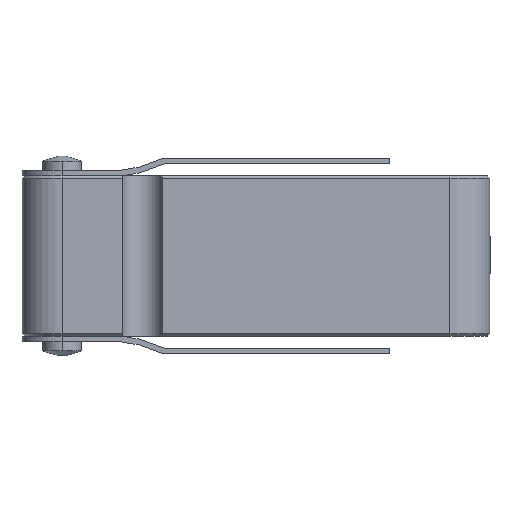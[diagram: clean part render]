
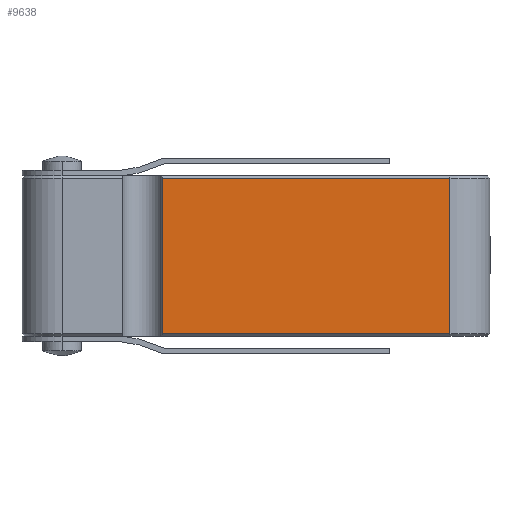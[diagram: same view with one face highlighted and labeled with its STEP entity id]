
A CAD part, left-side view. The second image highlights one B-rep face of the part: STEP entity #9638.
In plain terms, the highlighted planar face has unit normal (-1, 0, 0).
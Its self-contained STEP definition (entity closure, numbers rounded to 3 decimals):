
#405 = DIRECTION ( 'NONE',  ( 1., 0., 0. ) ) ;
#435 = ORIENTED_EDGE ( 'NONE', *, *, #3671, .T. ) ;
#599 = LINE ( 'NONE', #6861, #2677 ) ;
#1341 = AXIS2_PLACEMENT_3D ( 'NONE', #8072, #405, #3443 ) ;
#1380 = EDGE_CURVE ( 'NONE', #4018, #2571, #8473, .T. ) ;
#1952 = CARTESIAN_POINT ( 'NONE',  ( -12.5, 7., -5.8 ) ) ;
#1985 = CARTESIAN_POINT ( 'NONE',  ( -12.5, 7., 6. ) ) ;
#2067 = ORIENTED_EDGE ( 'NONE', *, *, #1380, .F. ) ;
#2144 = CARTESIAN_POINT ( 'NONE',  ( -12.5, -14.5, 6. ) ) ;
#2571 = VERTEX_POINT ( 'NONE', #5212 ) ;
#2677 = VECTOR ( 'NONE', #8260, 1000. ) ;
#3067 = ORIENTED_EDGE ( 'NONE', *, *, #9606, .T. ) ;
#3133 = VECTOR ( 'NONE', #5113, 1000. ) ;
#3443 = DIRECTION ( 'NONE',  ( 0., 1., 0. ) ) ;
#3671 = EDGE_CURVE ( 'NONE', #4018, #8632, #599, .T. ) ;
#4018 = VERTEX_POINT ( 'NONE', #8503 ) ;
#4112 = VECTOR ( 'NONE', #6872, 1000. ) ;
#4312 = PLANE ( 'NONE',  #1341 ) ;
#4648 = VERTEX_POINT ( 'NONE', #7112 ) ;
#4889 = ORIENTED_EDGE ( 'NONE', *, *, #8907, .T. ) ;
#5113 = DIRECTION ( 'NONE',  ( 0., 0., -1. ) ) ;
#5130 = LINE ( 'NONE', #1952, #8399 ) ;
#5212 = CARTESIAN_POINT ( 'NONE',  ( -12.5, -14.5, -5.8 ) ) ;
#6570 = EDGE_LOOP ( 'NONE', ( #4889, #3067, #2067, #435 ) ) ;
#6861 = CARTESIAN_POINT ( 'NONE',  ( -12.5, 7., 5.8 ) ) ;
#6872 = DIRECTION ( 'NONE',  ( 0., 0., -1. ) ) ;
#7112 = CARTESIAN_POINT ( 'NONE',  ( -12.5, 7., -5.8 ) ) ;
#8072 = CARTESIAN_POINT ( 'NONE',  ( -12.5, 7., 6. ) ) ;
#8260 = DIRECTION ( 'NONE',  ( 0., 1., 0. ) ) ;
#8399 = VECTOR ( 'NONE', #9615, 1000. ) ;
#8473 = LINE ( 'NONE', #2144, #4112 ) ;
#8503 = CARTESIAN_POINT ( 'NONE',  ( -12.5, -14.5, 5.8 ) ) ;
#8632 = VERTEX_POINT ( 'NONE', #9747 ) ;
#8907 = EDGE_CURVE ( 'NONE', #8632, #4648, #9024, .T. ) ;
#9024 = LINE ( 'NONE', #1985, #3133 ) ;
#9606 = EDGE_CURVE ( 'NONE', #4648, #2571, #5130, .T. ) ;
#9615 = DIRECTION ( 'NONE',  ( 0., -1., 0. ) ) ;
#9638 = ADVANCED_FACE ( 'NONE', ( #9713 ), #4312, .F. ) ;
#9713 = FACE_OUTER_BOUND ( 'NONE', #6570, .T. ) ;
#9747 = CARTESIAN_POINT ( 'NONE',  ( -12.5, 7., 5.8 ) ) ;
